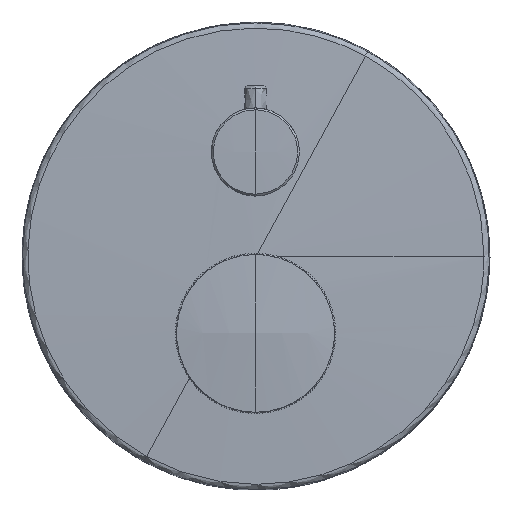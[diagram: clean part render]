
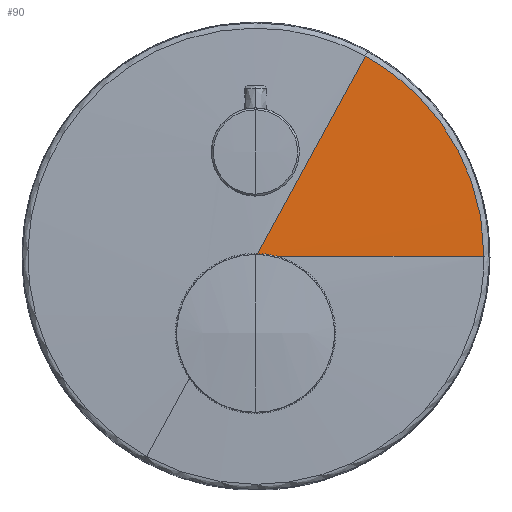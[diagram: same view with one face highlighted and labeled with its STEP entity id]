
A CAD part, front view. The second image highlights one B-rep face of the part: STEP entity #90.
In plain terms, the highlighted free-form (B-spline) face has degree [2, 2] with [9, 5] control points.
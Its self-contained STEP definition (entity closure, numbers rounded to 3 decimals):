
#90=ADVANCED_FACE('',(#1410),#18752,.T.);
#1410=FACE_OUTER_BOUND('',#2737,.T.);
#2737=EDGE_LOOP('',(#4220,#4221,#4222));
#4220=ORIENTED_EDGE('',*,*,#10501,.T.);
#4221=ORIENTED_EDGE('',*,*,#10504,.T.);
#4222=ORIENTED_EDGE('',*,*,#10507,.F.);
#10501=EDGE_CURVE('',#16897,#16895,#16067,.T.);
#10504=EDGE_CURVE('',#16895,#16898,#16070,.T.);
#10507=EDGE_CURVE('',#16897,#16898,#16073,.T.);
#16067=(
BOUNDED_CURVE()
B_SPLINE_CURVE(2,(#22350,#22351,#22352),.UNSPECIFIED.,.F.,.F.)
B_SPLINE_CURVE_WITH_KNOTS((3,3),(-88.698,0.),.UNSPECIFIED.)
CURVE()
GEOMETRIC_REPRESENTATION_ITEM()
RATIONAL_B_SPLINE_CURVE((1.,0.86,1.))
REPRESENTATION_ITEM('')
);
#16070=(
BOUNDED_CURVE()
B_SPLINE_CURVE(2,(#22363,#22364,#22365),.UNSPECIFIED.,.F.,.F.)
B_SPLINE_CURVE_WITH_KNOTS((3,3),(-86.461,-3.601),
 .UNSPECIFIED.)
CURVE()
GEOMETRIC_REPRESENTATION_ITEM()
RATIONAL_B_SPLINE_CURVE((1.,1.,1.))
REPRESENTATION_ITEM('')
);
#16073=(
BOUNDED_CURVE()
B_SPLINE_CURVE(2,(#22372,#22373,#22374),.UNSPECIFIED.,.F.,.F.)
B_SPLINE_CURVE_WITH_KNOTS((3,3),(5861.033,5943.893),
 .UNSPECIFIED.)
CURVE()
GEOMETRIC_REPRESENTATION_ITEM()
RATIONAL_B_SPLINE_CURVE((1.,1.,1.))
REPRESENTATION_ITEM('')
);
#16895=VERTEX_POINT('',#22215);
#16897=VERTEX_POINT('',#22217);
#16898=VERTEX_POINT('',#22218);
#18752=(
BOUNDED_SURFACE()
B_SPLINE_SURFACE(2,2,((#22143,#22144,#22145,#22146,#22147),(#22148,#22149,
#22150,#22151,#22152),(#22153,#22154,#22155,#22156,#22157),(#22158,#22159,
#22160,#22161,#22162),(#22163,#22164,#22165,#22166,#22167),(#22168,#22169,
#22170,#22171,#22172),(#22173,#22174,#22175,#22176,#22177),(#22178,#22179,
#22180,#22181,#22182),(#22183,#22184,#22185,#22186,#22187)),
 .UNSPECIFIED.,.T.,.F.,.F.)
B_SPLINE_SURFACE_WITH_KNOTS((3,2,2,2,3),(3,2,3),(0.,2971.947,5943.893,
8915.84,11887.787),(0.,2971.947,5943.893),
 .UNSPECIFIED.)
GEOMETRIC_REPRESENTATION_ITEM()
RATIONAL_B_SPLINE_SURFACE(((1.,0.707,1.,0.707,1.),
(0.707,0.5,0.707,0.5,0.707),(1.,0.707,
1.,0.707,1.),(0.707,0.5,0.707,0.5,0.707),
(1.,0.707,1.,0.707,1.),(0.707,0.5,0.707,
0.5,0.707),(1.,0.707,1.,0.707,1.),(0.707,
0.5,0.707,0.5,0.707),(1.,0.707,1.,0.707,
1.)))
REPRESENTATION_ITEM('')
SURFACE()
);
#22143=CARTESIAN_POINT('',(-0.952,3812.082,-0.507));
#22144=CARTESIAN_POINT('',(1891.048,3812.082,-0.507));
#22145=CARTESIAN_POINT('',(1891.048,1920.082,-0.507));
#22146=CARTESIAN_POINT('',(1891.048,28.082,-0.507));
#22147=CARTESIAN_POINT('',(-0.952,28.082,-0.507));
#22148=CARTESIAN_POINT('',(-0.952,3812.082,-0.507));
#22149=CARTESIAN_POINT('',(1891.048,3812.082,1891.493));
#22150=CARTESIAN_POINT('',(1891.048,1920.082,1891.493));
#22151=CARTESIAN_POINT('',(1891.048,28.082,1891.493));
#22152=CARTESIAN_POINT('',(-0.952,28.082,-0.507));
#22153=CARTESIAN_POINT('',(-0.952,3812.082,-0.507));
#22154=CARTESIAN_POINT('',(-0.952,3812.082,1891.493));
#22155=CARTESIAN_POINT('',(-0.952,1920.082,1891.493));
#22156=CARTESIAN_POINT('',(-0.952,28.082,1891.493));
#22157=CARTESIAN_POINT('',(-0.952,28.082,-0.507));
#22158=CARTESIAN_POINT('',(-0.952,3812.082,-0.507));
#22159=CARTESIAN_POINT('',(-1892.952,3812.082,1891.493));
#22160=CARTESIAN_POINT('',(-1892.952,1920.082,1891.493));
#22161=CARTESIAN_POINT('',(-1892.952,28.082,1891.493));
#22162=CARTESIAN_POINT('',(-0.952,28.082,-0.507));
#22163=CARTESIAN_POINT('',(-0.952,3812.082,-0.507));
#22164=CARTESIAN_POINT('',(-1892.952,3812.082,-0.507));
#22165=CARTESIAN_POINT('',(-1892.952,1920.082,-0.507));
#22166=CARTESIAN_POINT('',(-1892.952,28.082,-0.507));
#22167=CARTESIAN_POINT('',(-0.952,28.082,-0.507));
#22168=CARTESIAN_POINT('',(-0.952,3812.082,-0.507));
#22169=CARTESIAN_POINT('',(-1892.952,3812.082,-1892.507));
#22170=CARTESIAN_POINT('',(-1892.952,1920.082,-1892.507));
#22171=CARTESIAN_POINT('',(-1892.952,28.082,-1892.507));
#22172=CARTESIAN_POINT('',(-0.952,28.082,-0.507));
#22173=CARTESIAN_POINT('',(-0.952,3812.082,-0.507));
#22174=CARTESIAN_POINT('',(-0.952,3812.082,-1892.507));
#22175=CARTESIAN_POINT('',(-0.952,1920.082,-1892.507));
#22176=CARTESIAN_POINT('',(-0.952,28.082,-1892.507));
#22177=CARTESIAN_POINT('',(-0.952,28.082,-0.507));
#22178=CARTESIAN_POINT('',(-0.952,3812.082,-0.507));
#22179=CARTESIAN_POINT('',(1891.048,3812.082,-1892.507));
#22180=CARTESIAN_POINT('',(1891.048,1920.082,-1892.507));
#22181=CARTESIAN_POINT('',(1891.048,28.082,-1892.507));
#22182=CARTESIAN_POINT('',(-0.952,28.082,-0.507));
#22183=CARTESIAN_POINT('',(-0.952,3812.082,-0.507));
#22184=CARTESIAN_POINT('',(1891.048,3812.082,-0.507));
#22185=CARTESIAN_POINT('',(1891.048,1920.082,-0.507));
#22186=CARTESIAN_POINT('',(1891.048,28.082,-0.507));
#22187=CARTESIAN_POINT('',(-0.952,28.082,-0.507));
#22215=CARTESIAN_POINT('',(38.761,29.896,72.187));
#22217=CARTESIAN_POINT('',(81.882,29.896,-0.507));
#22218=CARTESIAN_POINT('',(-0.952,28.082,-0.507));
#22350=CARTESIAN_POINT('',(81.882,29.896,-0.507));
#22351=CARTESIAN_POINT('',(81.882,29.896,48.63));
#22352=CARTESIAN_POINT('',(38.761,29.896,72.187));
#22363=CARTESIAN_POINT('',(38.761,29.896,72.187));
#22364=CARTESIAN_POINT('',(18.914,28.082,35.857));
#22365=CARTESIAN_POINT('',(-0.952,28.082,-0.507));
#22372=CARTESIAN_POINT('',(81.882,29.896,-0.507));
#22373=CARTESIAN_POINT('',(40.485,28.082,-0.507));
#22374=CARTESIAN_POINT('',(-0.952,28.082,-0.507));
